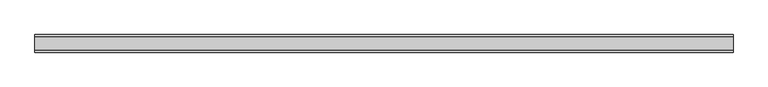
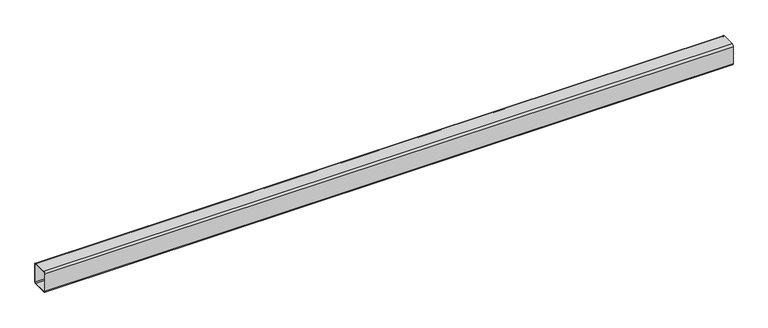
"""IFC4 building model written with IfcOpenShell, lengths in millimetres: beam geometry, Труба прямоугольного сечения (ТУ 67-2287-80) Балки : труба200x160x8."""

from ifc_helpers import new_model, si_unit, point, frame, frame_2d, origin, place, context, project, spatial, polyline, circle_curve, trimmed, segment, composite_curve, outline, extrude, source, transform, mapped, element, save


def beam_93301dd0(model_context):
    return source(origin(), model_context, "Body", "SweptSolid", [
        extrude(outline(composite_curve([segment(polyline([(-64.0, 100.0), (64.0, 100.0)]), True, "CONTINUOUS"), segment(trimmed(circle_curve(frame_2d((64.0, 84.0)), 16.0), [point((64.0, 100.0))], [point((80.0, 84.0))], False, "CARTESIAN"), True, "CONTINUOUS"), segment(polyline([(80.0, 84.0), (80.0, -84.0)]), True, "CONTINUOUS"), segment(trimmed(circle_curve(frame_2d((64.0, -84.0)), 16.0), [point((80.0, -84.0))], [point((64.0, -100.0))], False, "CARTESIAN"), True, "CONTINUOUS"), segment(polyline([(64.0, -100.0), (-64.0, -100.0)]), True, "CONTINUOUS"), segment(trimmed(circle_curve(frame_2d((-64.0, -84.0)), 16.0), [point((-64.0, -100.0))], [point((-80.0, -84.0))], False, "CARTESIAN"), True, "CONTINUOUS"), segment(polyline([(-80.0, -84.0), (-80.0, 84.0)]), True, "CONTINUOUS"), segment(trimmed(circle_curve(frame_2d((-64.0, 84.0)), 16.0), [point((-80.0, 84.0))], [point((-64.0, 100.0))], False, "CARTESIAN"), True, "CONTINUOUS")], self_intersect=False), holes=[composite_curve([segment(trimmed(circle_curve(frame_2d((-64.0, 84.0)), 8.0), [point((-64.0, 92.0))], [point((-72.0, 84.0))], True, "CARTESIAN"), True, "CONTINUOUS"), segment(polyline([(-72.0, 84.0), (-72.0, -84.0)]), True, "CONTINUOUS"), segment(trimmed(circle_curve(frame_2d((-64.0, -84.0)), 8.0), [point((-72.0, -84.0))], [point((-64.0, -92.0))], True, "CARTESIAN"), True, "CONTINUOUS"), segment(polyline([(-64.0, -92.0), (64.0, -92.0)]), True, "CONTINUOUS"), segment(trimmed(circle_curve(frame_2d((64.0, -84.0)), 8.0), [point((64.0, -92.0))], [point((72.0, -84.0))], True, "CARTESIAN"), True, "CONTINUOUS"), segment(polyline([(72.0, -84.0), (72.0, 84.0)]), True, "CONTINUOUS"), segment(trimmed(circle_curve(frame_2d((64.0, 84.0)), 8.0), [point((72.0, 84.0))], [point((64.0, 92.0))], True, "CARTESIAN"), True, "CONTINUOUS"), segment(polyline([(64.0, 92.0), (-64.0, 92.0)]), True, "CONTINUOUS")], self_intersect=False)]), frame((-3170.0, 0.0, 0.0), z_axis=(1.0, 0.0, 0.0), x_axis=(0.0, 1.0, 0.0)), (0.0, 0.0, 1.0), 6334.0),
    ])


if __name__ == "__main__":
    model = new_model("IFC4")
    model_context = context("Model", 3, world=origin())
    ifc_project = project(units=[si_unit("LENGTHUNIT", "METRE", prefix="MILLI")], contexts=[model_context])
    site = spatial("IfcSite", under=ifc_project)
    building = spatial("IfcBuilding", under=site)
    placement = place(None, origin())
    beam_shape = beam_93301dd0(model_context)
    element("IfcBeam", 1, ObjectType="Труба прямоугольного сечения (ТУ 67-2287-80) Балки : труба200x160x8", at=placement, inside=building, context=model_context, shape_type="MappedRepresentation", body=[
        mapped(beam_shape, transform((0.0, 0.0, 0.0), x_axis=(1.0, 0.0, 0.0), y_axis=(0.0, 1.0, 0.0), z_axis=(0.0, 0.0, 1.0))),
    ])
    save(model, "model.ifc")
